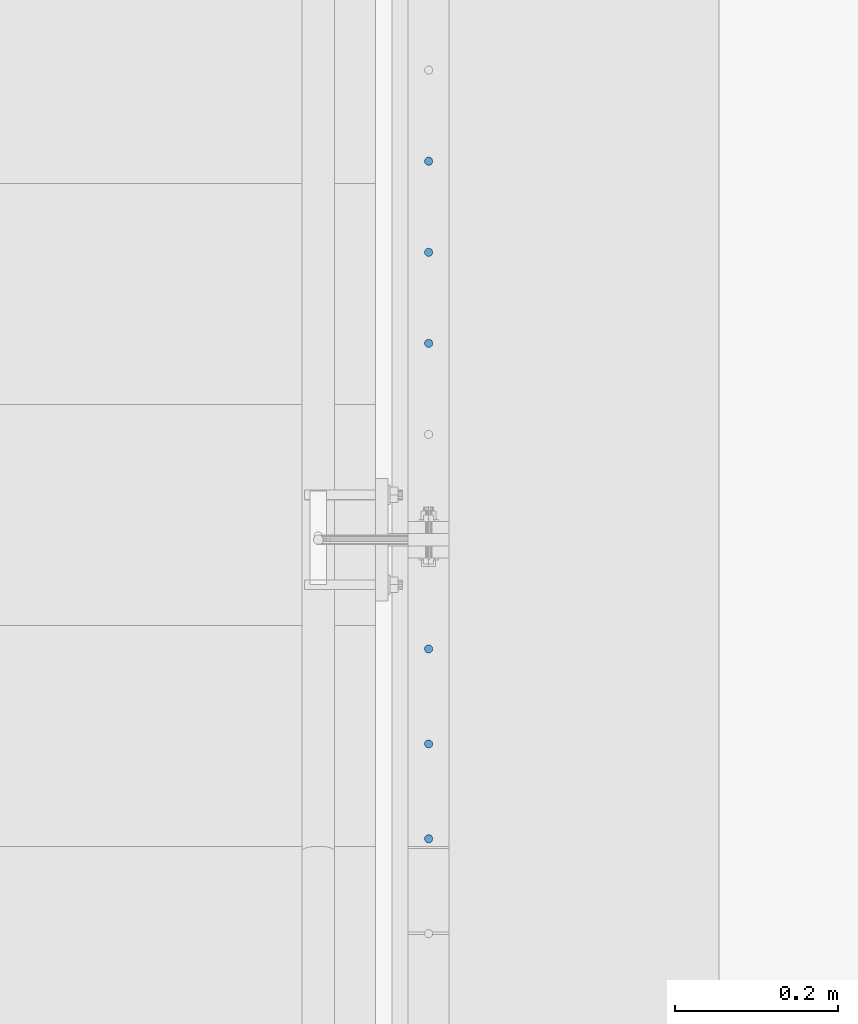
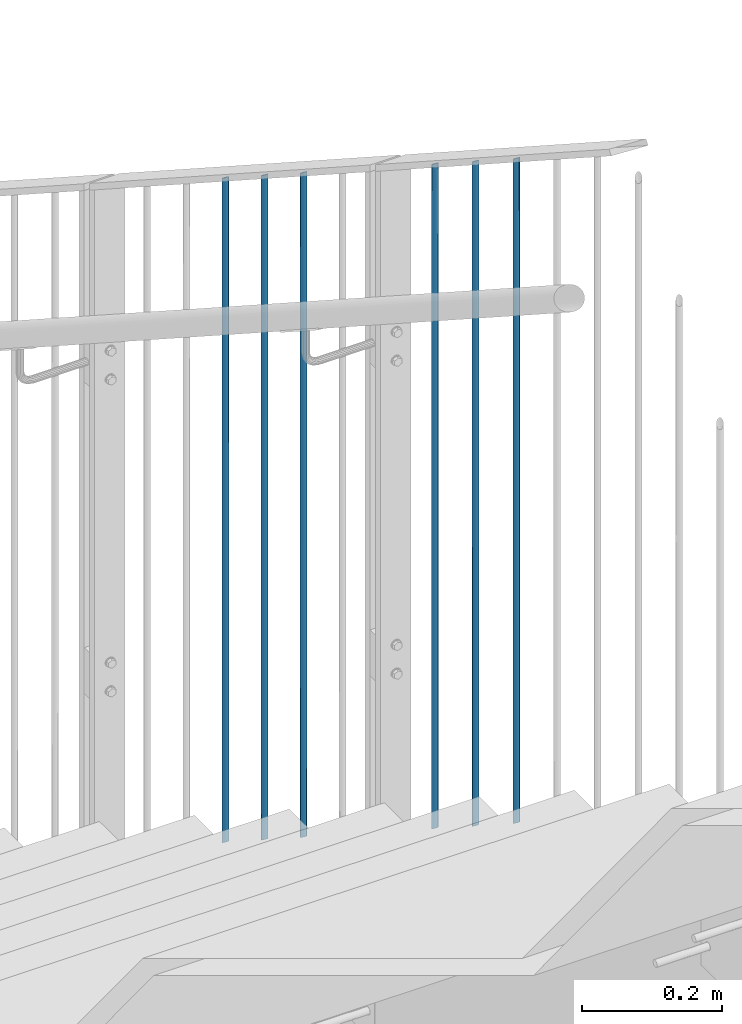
# One storey, part 37 of 296: 6 columns.
"""IFC2X3 building model written with IfcOpenShell, lengths in millimetres."""

from ifc_helpers import new_model, entity, si_unit, converted_unit, frame, origin, origin_with_axes, origin_2d, place, context, project, spatial, circle, extrude, clip, halfspace, material, element, save


model = new_model("IFC2X3")

# Units and contexts
model_context = context("Model", 3, precision=1e-09, world=origin_with_axes())
ifc_project = project(units=[si_unit("LENGTHUNIT", "METRE", prefix="MILLI"), si_unit("AREAUNIT", "SQUARE_METRE"), si_unit("VOLUMEUNIT", "CUBIC_METRE"), converted_unit("PLANEANGLEUNIT", "DEGREE", entity("IfcPlaneAngleMeasure", 0.01745329), si_unit("PLANEANGLEUNIT", "RADIAN"), dimensions=[0, 0, 0, 0, 0, 0, 0])], contexts=[model_context])

# Site, building, storey
site_placement = place(None, origin_with_axes())
site = spatial("IfcSite", under=ifc_project, at=site_placement, Name="TZD-S?d | Treppenhausgel?nder", CompositionType="ELEMENT")
building_placement = place(site_placement, origin_with_axes())
building = spatial("IfcBuilding", under=site, at=building_placement, Name="Struktur 1", CompositionType="ELEMENT")
storey_placement = place(building_placement, origin_with_axes())
storey = spatial("IfcBuildingStorey", under=building, at=storey_placement, Name="Default Storey", CompositionType="ELEMENT", Elevation=0.0)

# Columns
ifc_material = material(Name="S235JR")
column_1_placement = place(None, frame((5894.999, -2700.8333334, 4287.886592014), z_axis=(0.0, 0.0, -1.0), x_axis=(0.0, 1.0, 0.0)))
element("IfcColumn", 1, at=column_1_placement, inside=storey, material=ifc_material, Name="-", ObjectType="-", context=model_context, shape_type="Clipping", body=[
    clip(clip(extrude(circle(Radius=5.0, at=origin_2d()), origin(), (0.0, 0.0, -1.0), 1184.932529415), halfspace(frame((4393.419076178, -5894.999, 1670.077744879), z_axis=(-0.542959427, 0.0, 0.83975893), x_axis=(0.0, 1.0, 0.0)), True)), halfspace(frame((3866.252418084, -5894.999, 2485.411058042), z_axis=(0.542959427, 0.0, -0.83975893), x_axis=(0.0, -1.0, 0.0)), True)),
])
column_2_placement = place(None, frame((5894.999, -2584.7222223, 4212.813115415), z_axis=(0.0, 0.0, -1.0), x_axis=(0.0, 1.0, 0.0)))
element("IfcColumn", 2, at=column_2_placement, inside=storey, material=ifc_material, Name="-", ObjectType="-", context=model_context, shape_type="Clipping", body=[
    clip(clip(extrude(circle(Radius=5.0, at=origin_2d()), origin(), (0.0, 0.0, -1.0), 1184.932529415), halfspace(frame((3750.141306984, -5894.999, 2410.337581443), z_axis=(0.542959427, 0.0, -0.83975893), x_axis=(0.0, -1.0, 0.0)), True)), halfspace(frame((4277.307965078, -5894.999, 1595.00426828), z_axis=(-0.542959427, 0.0, 0.83975893), x_axis=(0.0, 1.0, 0.0)), True)),
])
column_3_placement = place(None, frame((5894.999, -2468.6111112, 4137.739638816), z_axis=(0.0, 0.0, -1.0), x_axis=(0.0, 1.0, 0.0)))
element("IfcColumn", 3, at=column_3_placement, inside=storey, material=ifc_material, Name="-", ObjectType="-", context=model_context, shape_type="Clipping", body=[
    clip(clip(extrude(circle(Radius=5.0, at=origin_2d()), origin(), (0.0, 0.0, -1.0), 1184.932529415), halfspace(frame((4161.196853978, -5894.999, 1519.930791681), z_axis=(-0.542959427, 0.0, 0.83975893), x_axis=(0.0, 1.0, 0.0)), True)), halfspace(frame((3634.030195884, -5894.999, 2335.264104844), z_axis=(0.542959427, 0.0, -0.83975893), x_axis=(0.0, -1.0, 0.0)), True)),
])
column_4_placement = place(None, frame((5894.999, -2094.6428572, 3895.944545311), z_axis=(0.0, 0.0, -1.0), x_axis=(0.0, 1.0, 0.0)))
element("IfcColumn", 4, at=column_4_placement, inside=storey, material=ifc_material, Name="-", ObjectType="-", context=model_context, shape_type="Clipping", body=[
    clip(clip(extrude(circle(Radius=5.0, at=origin_2d()), origin(), (0.0, 0.0, -1.0), 1184.932529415), halfspace(frame((3260.061941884, -5894.999, 2093.469011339), z_axis=(0.542959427, 0.0, -0.83975893), x_axis=(0.0, -1.0, 0.0)), True)), halfspace(frame((3787.228599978, -5894.999, 1278.135698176), z_axis=(-0.542959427, 0.0, 0.83975893), x_axis=(0.0, 1.0, 0.0)), True)),
])
column_5_placement = place(None, frame((5894.999, -1983.2142858, 3823.898638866), z_axis=(0.0, 0.0, -1.0), x_axis=(0.0, 1.0, 0.0)))
element("IfcColumn", 5, at=column_5_placement, inside=storey, material=ifc_material, Name="-", ObjectType="-", context=model_context, shape_type="Clipping", body=[
    clip(clip(extrude(circle(Radius=5.0, at=origin_2d()), origin(), (0.0, 0.0, -1.0), 1184.932529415), halfspace(frame((3675.800028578, -5894.999, 1206.089791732), z_axis=(-0.542959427, 0.0, 0.83975893), x_axis=(0.0, 1.0, 0.0)), True)), halfspace(frame((3148.633370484, -5894.999, 2021.423104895), z_axis=(0.542959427, 0.0, -0.83975893), x_axis=(0.0, -1.0, 0.0)), True)),
])
column_6_placement = place(None, frame((5894.999, -1871.7857144, 3751.852732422), z_axis=(0.0, 0.0, -1.0), x_axis=(0.0, 1.0, 0.0)))
element("IfcColumn", 6, at=column_6_placement, inside=storey, material=ifc_material, Name="-", ObjectType="-", context=model_context, shape_type="Clipping", body=[
    clip(clip(extrude(circle(Radius=5.0, at=origin_2d()), origin(), (0.0, 0.0, -1.0), 1184.932529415), halfspace(frame((3564.371457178, -5894.999, 1134.043885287), z_axis=(-0.542959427, 0.0, 0.83975893), x_axis=(0.0, 1.0, 0.0)), True)), halfspace(frame((3037.204799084, -5894.999, 1949.37719845), z_axis=(0.542959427, 0.0, -0.83975893), x_axis=(0.0, -1.0, 0.0)), True)),
])

save(model, "model.ifc")
